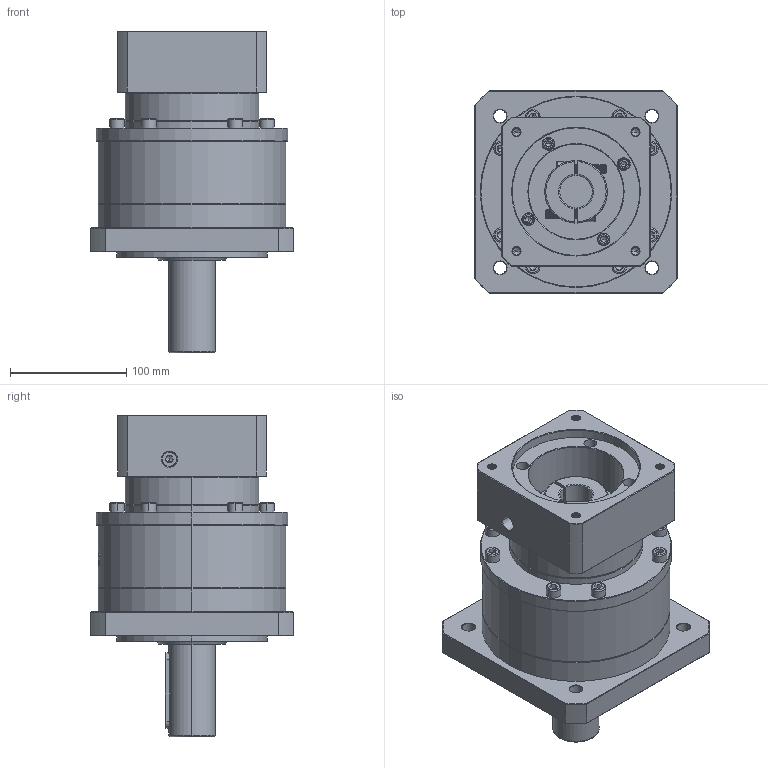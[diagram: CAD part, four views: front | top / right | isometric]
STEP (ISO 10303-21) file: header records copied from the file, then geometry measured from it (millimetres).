
FILE_DESCRIPTION (( 'STEP AP214' ), '1' );
FILE_NAME ('ZF160-D40-L1-28-110-145-M8.step', '2023-03-21T04:28:01', ( '' ), ( '' ), 'SwSTEP 2.0', 'SolidWorks 2016', '' );
FILE_SCHEMA (( 'AUTOMOTIVE_DESIGN' ));
Length unit declared in the file: millimetre
Products named in the file (1): ZF160-D40-L1-28-110-145-M8
Bounding box: 175 x 175 x 277.3 mm (x, y, z)
Volume: 3411711 mm3; surface area: 311820.9 mm2
Topology: 7 solids, 7 shells, 1856 faces, 4685 edges, 2956 vertices
Faces by surface type: plane 747, cylinder 484, cone 355, bspline 212, torus 58
Entity records: 99192 total; most frequent: CARTESIAN_POINT 36463, ORIENTED_EDGE 9262, DIRECTION 8140, EDGE_CURVE 4631, VERTEX_POINT 2956, AXIS2_PLACEMENT_3D 2823, LINE 2494, VECTOR 2494
